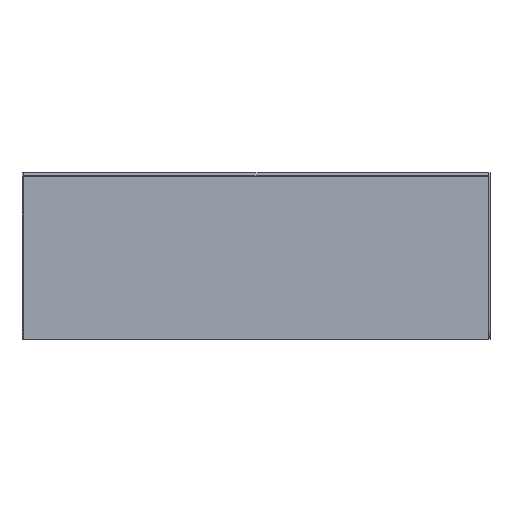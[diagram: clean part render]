
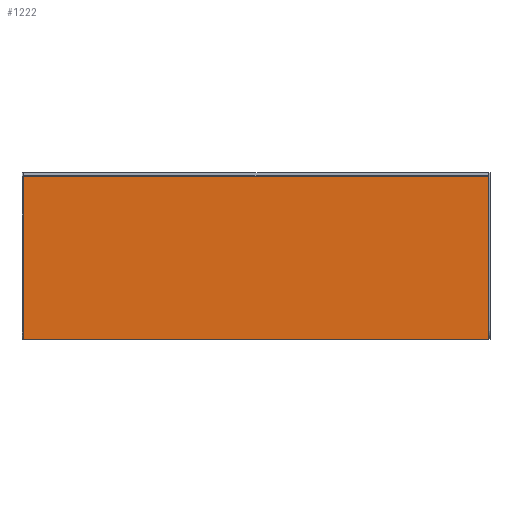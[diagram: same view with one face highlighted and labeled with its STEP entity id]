
A CAD part, front view. The second image highlights one B-rep face of the part: STEP entity #1222.
In plain terms, the highlighted planar face has unit normal (0, -1, 0).
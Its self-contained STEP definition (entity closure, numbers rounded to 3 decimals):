
#47 = LINE ( 'NONE', #1608, #920 ) ;
#87 = VERTEX_POINT ( 'NONE', #771 ) ;
#125 = VERTEX_POINT ( 'NONE', #1705 ) ;
#142 = ORIENTED_EDGE ( 'NONE', *, *, #670, .F. ) ;
#182 = AXIS2_PLACEMENT_3D ( 'NONE', #995, #971, #311 ) ;
#311 = DIRECTION ( 'NONE',  ( 0., 0., -1. ) ) ;
#329 = EDGE_CURVE ( 'NONE', #790, #125, #1021, .T. ) ;
#385 = VERTEX_POINT ( 'NONE', #914 ) ;
#402 = DIRECTION ( 'NONE',  ( 1., 0., 0. ) ) ;
#444 = VECTOR ( 'NONE', #1368, 1000. ) ;
#511 = EDGE_CURVE ( 'NONE', #125, #87, #47, .T. ) ;
#542 = LINE ( 'NONE', #1402, #444 ) ;
#558 = EDGE_LOOP ( 'NONE', ( #725, #1087, #758, #142 ) ) ;
#670 = EDGE_CURVE ( 'NONE', #385, #790, #830, .T. ) ;
#725 = ORIENTED_EDGE ( 'NONE', *, *, #1102, .F. ) ;
#758 = ORIENTED_EDGE ( 'NONE', *, *, #329, .F. ) ;
#771 = CARTESIAN_POINT ( 'NONE',  ( 697., -17.5, 247. ) ) ;
#780 = DIRECTION ( 'NONE',  ( 0., 0., 1. ) ) ;
#790 = VERTEX_POINT ( 'NONE', #1535 ) ;
#830 = LINE ( 'NONE', #1371, #1614 ) ;
#914 = CARTESIAN_POINT ( 'NONE',  ( 697., -17.5, -247. ) ) ;
#920 = VECTOR ( 'NONE', #402, 1000. ) ;
#971 = DIRECTION ( 'NONE',  ( 0., -1., 0. ) ) ;
#995 = CARTESIAN_POINT ( 'NONE',  ( 0., -17.5, 0. ) ) ;
#997 = DIRECTION ( 'NONE',  ( -1., 0., 0. ) ) ;
#1021 = LINE ( 'NONE', #1158, #1525 ) ;
#1087 = ORIENTED_EDGE ( 'NONE', *, *, #511, .F. ) ;
#1102 = EDGE_CURVE ( 'NONE', #87, #385, #542, .T. ) ;
#1128 = PLANE ( 'NONE',  #182 ) ;
#1158 = CARTESIAN_POINT ( 'NONE',  ( -697., -17.5, 247. ) ) ;
#1222 = ADVANCED_FACE ( 'NONE', ( #1499 ), #1128, .T. ) ;
#1368 = DIRECTION ( 'NONE',  ( 0., 0., -1. ) ) ;
#1371 = CARTESIAN_POINT ( 'NONE',  ( -697., -17.5, -247. ) ) ;
#1402 = CARTESIAN_POINT ( 'NONE',  ( 697., -17.5, 247. ) ) ;
#1499 = FACE_OUTER_BOUND ( 'NONE', #558, .T. ) ;
#1525 = VECTOR ( 'NONE', #780, 1000. ) ;
#1535 = CARTESIAN_POINT ( 'NONE',  ( -697., -17.5, -247. ) ) ;
#1608 = CARTESIAN_POINT ( 'NONE',  ( -697., -17.5, 247. ) ) ;
#1614 = VECTOR ( 'NONE', #997, 1000. ) ;
#1705 = CARTESIAN_POINT ( 'NONE',  ( -697., -17.5, 247. ) ) ;
